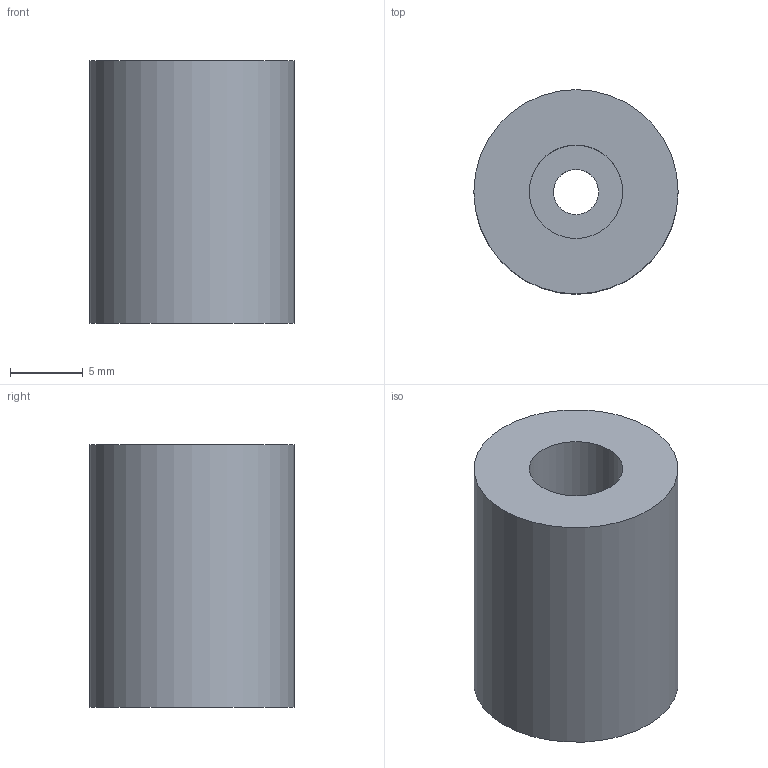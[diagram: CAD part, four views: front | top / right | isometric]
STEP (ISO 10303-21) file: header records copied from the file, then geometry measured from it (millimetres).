
FILE_DESCRIPTION(('Open CASCADE Model'),'2;1');
FILE_NAME('Open CASCADE Shape Model','2026-10-23T08:22:13',('Author'),( 'Open CASCADE'),'Open CASCADE STEP processor 7.9','Open CASCADE 7.9' ,'Unknown');
FILE_SCHEMA(('AUTOMOTIVE_DESIGN { 1 0 10303 214 1 1 1 1 }'));
Length unit declared in the file: millimetre
Products named in the file (1): Open CASCADE STEP translator 7.9 24
Bounding box: 14 x 14 x 18 mm (x, y, z)
Volume: 2413.4 mm3; surface area: 1353.1 mm2
Topology: 1 solids, 1 shells, 6 faces, 9 edges, 6 vertices
Faces by surface type: cylinder 3, plane 3
Full cylindrical faces by diameter (mm): 3.1 x1, 6.4 x1, 14 x1
Entity records: 270 total; most frequent: DIRECTION 47, CARTESIAN_POINT 40, ORIENTED_EDGE 18, PCURVE 18, DEFINITIONAL_REPRESENTATION 18, LINE 15, VECTOR 15, AXIS2_PLACEMENT_3D 13
